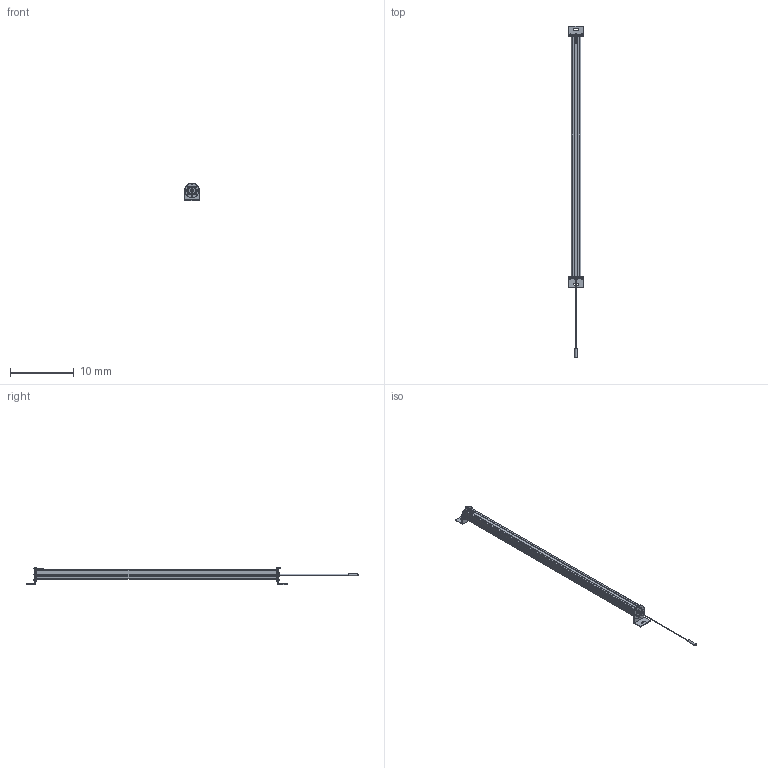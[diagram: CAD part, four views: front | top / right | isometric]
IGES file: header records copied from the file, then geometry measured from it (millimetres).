
Start section:  Autodesk DirectConnect version 7.0.27.0 ---- IGES version 5.3
Global section: file name: C:\ACADFILES\SS_PYLONS\CUSTOMER_FILES\SS-36-PYLON_3D_SMB.iges; native system: Autodesk DirectConnect 7.0.27.0; preprocessor: 7.0.27.0; author: ENGINEERMAIN; organization: Unknown; date: 20150810.125024; units: millimetre
Bounding box: 2.26 x 52.01 x 2.75 mm (x, y, z)
Surface area: 611.3 mm2 (no closed solid volume)
Topology: 0 solids, 0 shells, 754 faces, 3833 edges, 3829 vertices
Faces by surface type: bspline 754
